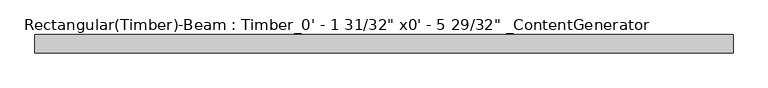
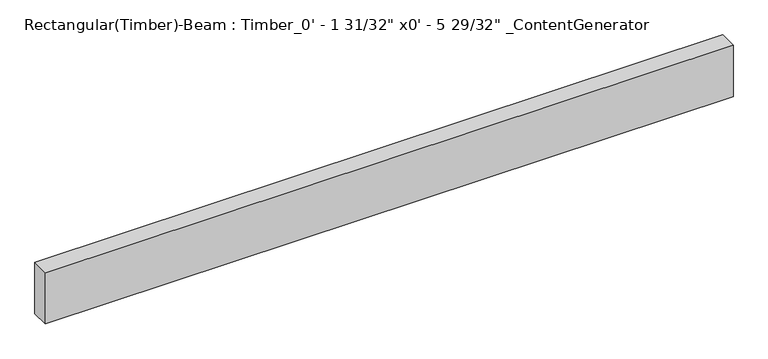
"""IFC4 building model written with IfcOpenShell, lengths in millimetres: beam geometry."""

from ifc_helpers import new_model, si_unit, frame, origin, place, context, project, spatial, polyline, outline, extrude, source, transform, mapped, element, save


def beam_dcf95fcd(model_context):
    return source(origin(), model_context, "Body", "SweptSolid", [
        extrude(outline(polyline([(965.215, 25.4), (965.215, -25.4), (-965.215, -25.4), (-965.215, 25.4), (965.215, 25.4)])), frame((0.0, 0.0, -76.2), z_axis=(0.0, 0.0, 1.0), x_axis=(1.0, 0.0, 0.0)), (0.0, 0.0, 1.0), 152.4),
    ])


if __name__ == "__main__":
    model = new_model("IFC4")
    model_context = context("Model", 3, world=origin())
    ifc_project = project(units=[si_unit("LENGTHUNIT", "METRE", prefix="MILLI")], contexts=[model_context])
    site = spatial("IfcSite", under=ifc_project)
    building = spatial("IfcBuilding", under=site)
    placement = place(None, origin())
    beam_shape = beam_dcf95fcd(model_context)
    element("IfcBeam", 1, ObjectType="Rectangular(Timber)-Beam : Timber_0' - 1 31/32\" x0' - 5 29/32\" _ContentGenerator", at=placement, inside=building, context=model_context, shape_type="MappedRepresentation", body=[
        mapped(beam_shape, transform((0.0, 0.0, 0.0), x_axis=(1.0, 0.0, 0.0), y_axis=(0.0, 1.0, 0.0), z_axis=(0.0, 0.0, 1.0))),
    ])
    save(model, "model.ifc")
